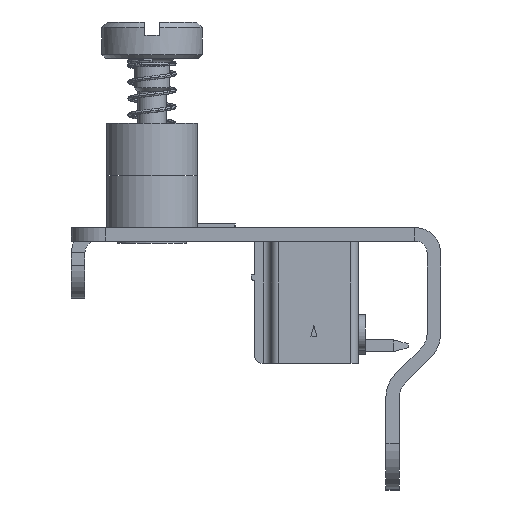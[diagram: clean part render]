
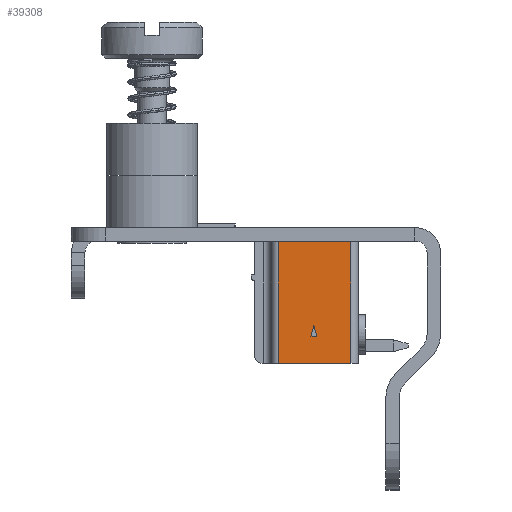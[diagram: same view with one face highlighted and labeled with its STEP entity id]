
A CAD part, left-side view. The second image highlights one B-rep face of the part: STEP entity #39308.
In plain terms, the highlighted planar face has unit normal (-1, 0, 0) as drawn and (0, 0, 1) by its records, which use the part's own axes.
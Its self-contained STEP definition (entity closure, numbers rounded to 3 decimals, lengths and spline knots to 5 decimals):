
#2113=FACE_BOUND('',#8359,.T.);
#3866=PLANE('',#42150);
#6046=FACE_OUTER_BOUND('',#8358,.T.);
#8358=EDGE_LOOP('',(#36325,#36326,#36327,#36328));
#8359=EDGE_LOOP('',(#36329,#36330,#36331));
#10684=LINE('',#62845,#14970);
#10689=LINE('',#62860,#14975);
#10728=LINE('',#62961,#15014);
#10751=LINE('',#63040,#15037);
#12371=LINE('',#67033,#16657);
#12647=LINE('',#67766,#16933);
#12648=LINE('',#67767,#16934);
#14970=VECTOR('',#46712,0.03937);
#14975=VECTOR('',#46725,0.03937);
#15014=VECTOR('',#46816,0.03937);
#15037=VECTOR('',#46893,0.03937);
#16657=VECTOR('',#50749,0.03937);
#16933=VECTOR('',#51491,0.03937);
#16934=VECTOR('',#51492,0.03937);
#19471=VERTEX_POINT('',#62841);
#19473=VERTEX_POINT('',#62844);
#19479=VERTEX_POINT('',#62859);
#19543=VERTEX_POINT('',#63037);
#19544=VERTEX_POINT('',#63039);
#20799=VERTEX_POINT('',#67031);
#21023=VERTEX_POINT('',#67765);
#23869=EDGE_CURVE('',#19471,#19473,#10684,.T.);
#23876=EDGE_CURVE('',#19479,#19471,#10689,.T.);
#23925=EDGE_CURVE('',#19473,#19479,#10728,.T.);
#23962=EDGE_CURVE('',#19543,#19544,#10751,.T.);
#25909=EDGE_CURVE('',#20799,#19543,#12371,.T.);
#26271=EDGE_CURVE('',#20799,#21023,#12647,.T.);
#26272=EDGE_CURVE('',#19544,#21023,#12648,.T.);
#36325=ORIENTED_EDGE('',*,*,#23962,.F.);
#36326=ORIENTED_EDGE('',*,*,#25909,.F.);
#36327=ORIENTED_EDGE('',*,*,#26271,.T.);
#36328=ORIENTED_EDGE('',*,*,#26272,.F.);
#36329=ORIENTED_EDGE('',*,*,#23869,.F.);
#36330=ORIENTED_EDGE('',*,*,#23876,.F.);
#36331=ORIENTED_EDGE('',*,*,#23925,.F.);
#39308=ADVANCED_FACE('',(#6046,#2113),#3866,.T.);
#42150=AXIS2_PLACEMENT_3D('',#67764,#51489,#51490);
#46712=DIRECTION('',(-0.966,0.259,0.));
#46725=DIRECTION('',(0.966,0.259,0.));
#46816=DIRECTION('',(0.,-1.,0.));
#46893=DIRECTION('',(1.,0.,0.));
#50749=DIRECTION('',(0.,1.,0.));
#51489=DIRECTION('center_axis',(0.,0.,1.));
#51490=DIRECTION('ref_axis',(1.,0.,0.));
#51491=DIRECTION('',(1.,0.,0.));
#51492=DIRECTION('',(0.,-1.,0.));
#62841=CARTESIAN_POINT('',(0.77165,0.94488,1.21654));
#62844=CARTESIAN_POINT('',(0.74213,0.95279,1.21654));
#62845=CARTESIAN_POINT('',(0.66929,0.97231,1.21654));
#62859=CARTESIAN_POINT('',(0.74213,0.93697,1.21654));
#62860=CARTESIAN_POINT('',(0.66929,0.91745,1.21654));
#62961=CARTESIAN_POINT('',(0.74213,0.82677,1.21654));
#63037=CARTESIAN_POINT('',(0.66929,1.03937,1.21654));
#63039=CARTESIAN_POINT('',(1.0315,1.03937,1.21654));
#63040=CARTESIAN_POINT('',(0.66929,1.03937,1.21654));
#67031=CARTESIAN_POINT('',(0.66929,0.84646,1.21654));
#67033=CARTESIAN_POINT('',(0.66929,0.82677,1.21654));
#67764=CARTESIAN_POINT('Origin',(0.66929,0.82677,1.21654));
#67765=CARTESIAN_POINT('',(1.0315,0.84646,1.21654));
#67766=CARTESIAN_POINT('',(0.66929,0.84646,1.21654));
#67767=CARTESIAN_POINT('',(1.0315,0.82677,1.21654));
